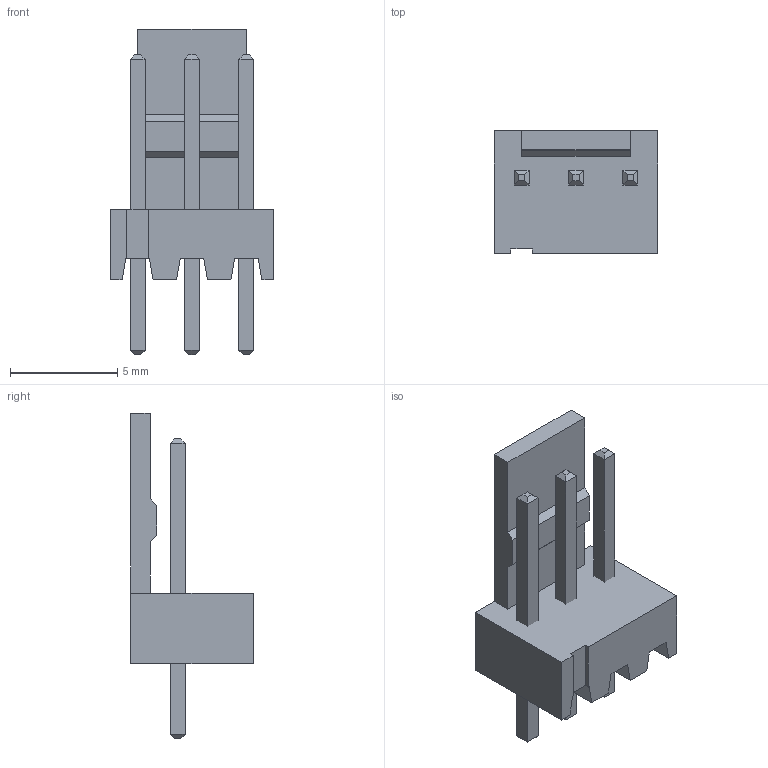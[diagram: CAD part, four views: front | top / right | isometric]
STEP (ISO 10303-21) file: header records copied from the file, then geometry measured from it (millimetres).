
FILE_DESCRIPTION(('FreeCAD Model'),'2;1');
FILE_NAME('Open CASCADE Shape Model','2023-09-05T14:18:03',(''),(''), 'Open CASCADE STEP processor 7.6','FreeCAD','Unknown');
FILE_SCHEMA(('AUTOMOTIVE_DESIGN { 1 0 10303 214 1 1 1 1 }'));
Length unit declared in the file: millimetre
Products named in the file (5): ns25-w3p; w3p_body; w3p_pin01; w3p_pin02; w3p_pin03
Assembly tree (4 placements, depth 2):
  ns25-w3p
    w3p_body
    w3p_pin01
    w3p_pin02
    w3p_pin03
Bounding box: 7.62 x 5.71 x 15.2 mm (x, y, z)
Volume: 178 mm3; surface area: 437.7 mm2
Topology: 4 solids, 4 shells, 87 faces, 204 edges, 128 vertices
Faces by surface type: plane 87
Entity records: 2525 total; most frequent: CARTESIAN_POINT 424, ORIENTED_EDGE 408, DIRECTION 388, EDGE_CURVE 204, LINE 204, VECTOR 204, VERTEX_POINT 128, AXIS2_PLACEMENT_3D 92
